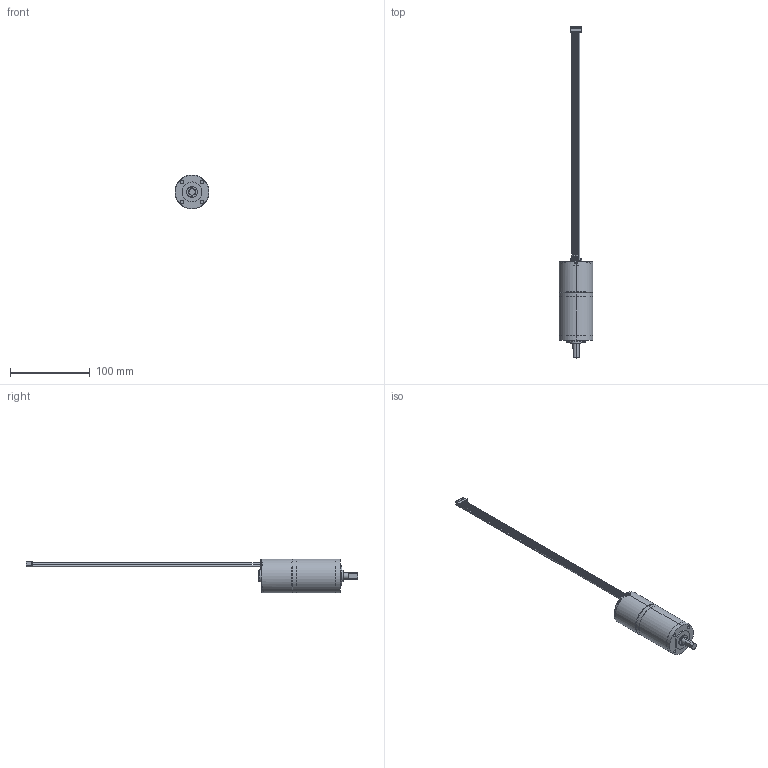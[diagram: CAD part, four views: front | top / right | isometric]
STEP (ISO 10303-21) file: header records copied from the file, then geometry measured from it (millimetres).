
FILE_DESCRIPTION((''),'2;1');
FILE_NAME('IG-42GM-61TYPE-5STAGE_ASM','2023-07-06T15:31:59',('M.C.Hsu'),(''),'CREO PARAMETRIC BY PTC INC, 2020414','CREO PARAMETRIC BY PTC INC, 2020414','');
FILE_SCHEMA(('CONFIG_CONTROL_DESIGN'));
Length unit declared in the file: millimetre
Products named in the file (19): NONE-15483; NONE-18143; NONE-19092; NONE-35041; NONE-36546; NONE-55043; NONE-56184; NONE-56856; UVW__W_L___STEP_ASM; _W_L___STEP_ASM; BL42012102____F___20230202_STEP; BL42610101____U_M______STEP; 4239_D_B_STEP; _STEP; XHP-5_STEP; BL4239__STEP000_ASM; IG423600-00; IG-42GM-61TYPE-5STAGE_1_ASM; IG-42GM-61TYPE-5STAGE_ASM
Assembly tree (18 placements, depth 6):
  IG-42GM-61TYPE-5STAGE_ASM
    IG-42GM-61TYPE-5STAGE_1_ASM
      BL4239__STEP000_ASM
        _W_L___STEP_ASM
          UVW__W_L___STEP_ASM
            NONE-15483
            NONE-18143
            NONE-19092
            NONE-35041
            NONE-36546
            NONE-55043
            NONE-56184
            NONE-56856
        BL42012102____F___20230202_STEP
        BL42610101____U_M______STEP
        4239_D_B_STEP
        _STEP
        XHP-5_STEP
      IG423600-00
Bounding box: 42.4 x 415.25 x 42.45 mm (x, y, z)
Volume: 97635.7 mm3; surface area: 43007.1 mm2
Topology: 14 solids, 14 shells, 384 faces, 906 edges, 594 vertices
Faces by surface type: plane 227, cylinder 121, torus 28, cone 8
Entity records: 11699 total; most frequent: DIRECTION 2130, CARTESIAN_POINT 2031, ORIENTED_EDGE 1812, EDGE_CURVE 906, AXIS2_PLACEMENT_3D 790, VERTEX_POINT 594, VECTOR 550, LINE 550
